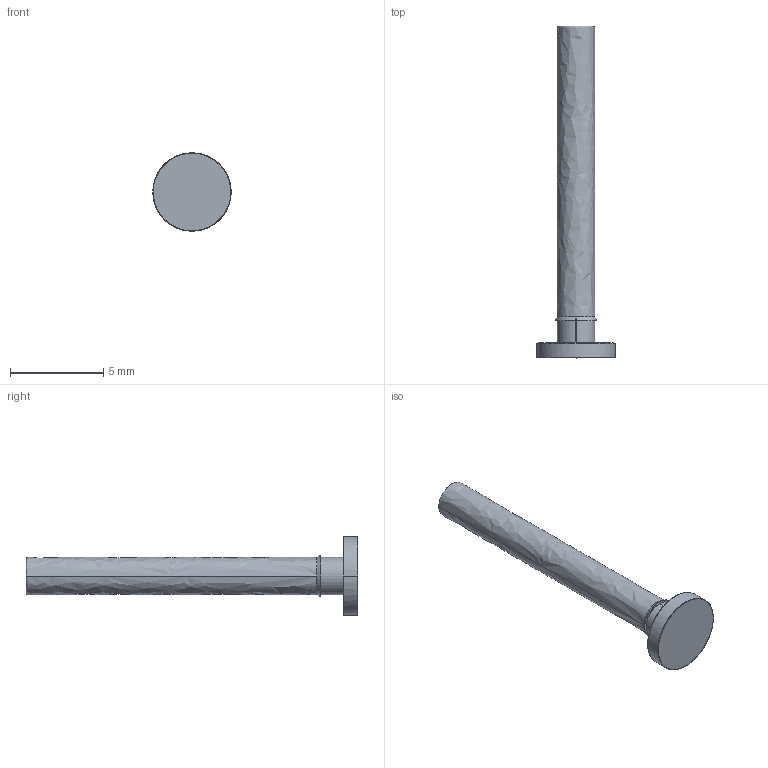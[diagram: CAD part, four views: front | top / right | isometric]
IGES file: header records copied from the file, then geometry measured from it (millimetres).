
Start section: SolidWorks IGES file using analytic representation for surfaces
Global section: file name: F:\OneDrive\Desktop\Coda\20.7\Contact Lands RTP Completed\IPP3 RTP\IPP3.IGS; native system: SolidWorks 2021; preprocessor: SolidWorks 2021; author: Georg; date: 210720.122407; units: millimetre
Bounding box: 4.2 x 17.8 x 4.2 mm (x, y, z)
Surface area: 163.6 mm2 (no closed solid volume)
Topology: 0 solids, 0 shells, 19 faces, 222 edges, 220 vertices
Faces by surface type: revolution 10, bspline 9
